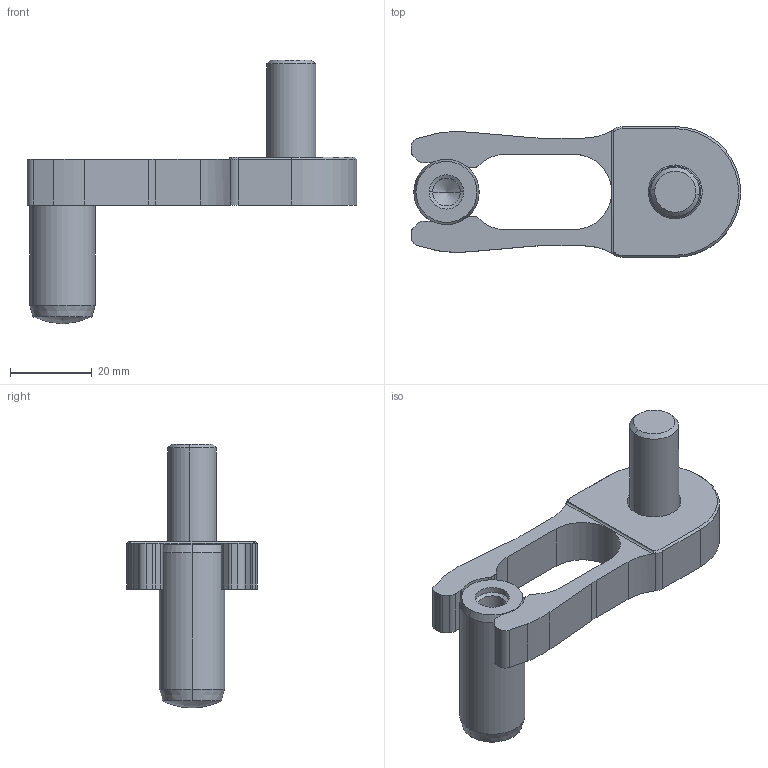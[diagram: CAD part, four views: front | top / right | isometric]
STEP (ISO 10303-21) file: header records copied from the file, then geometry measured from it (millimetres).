
FILE_DESCRIPTION (( 'STEP AP214' ), '1' );
FILE_NAME ('RC328012.STEP', '2017-05-16T14:55:59', ( '' ), ( '' ), 'SwSTEP 2.0', 'SolidWorks 2017', '' );
FILE_SCHEMA (( 'AUTOMOTIVE_DESIGN' ));
Length unit declared in the file: millimetre
Products named in the file (4): 9RC328012; RC328012; 1DIN79911235_DIN 7991 - M12 x 35 --- 35C; 1PCR79791640_ISO 8735-16x40-A-St
Assembly tree (3 placements, depth 2):
  RC328012
    9RC328012
    1DIN79911235_DIN 7991 - M12 x 35 --- 35C
    1PCR79791640_ISO 8735-16x40-A-St
Bounding box: 80.6 x 32 x 64.6 mm (x, y, z)
Volume: 25534.6 mm3; surface area: 11484.5 mm2
Topology: 3 solids, 3 shells, 105 faces, 260 edges, 159 vertices
Faces by surface type: cylinder 41, plane 39, cone 21, torus 2, sphere 2
Entity records: 3295 total; most frequent: DIRECTION 581, CARTESIAN_POINT 550, ORIENTED_EDGE 512, EDGE_CURVE 256, AXIS2_PLACEMENT_3D 218, VERTEX_POINT 159, VECTOR 145, LINE 145
